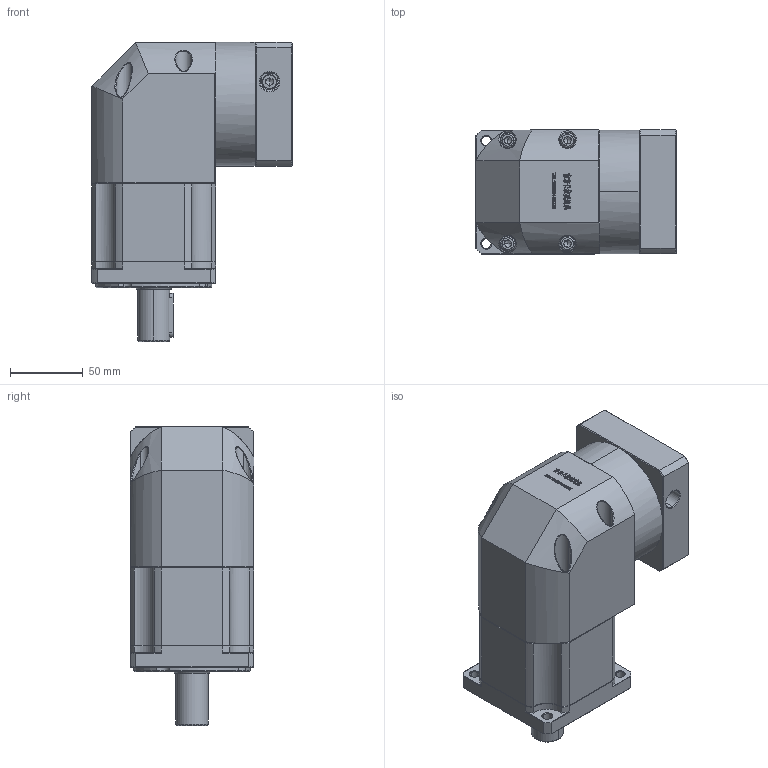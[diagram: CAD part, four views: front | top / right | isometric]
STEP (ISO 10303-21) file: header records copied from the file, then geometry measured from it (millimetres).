
FILE_DESCRIPTION (( 'STEP AP214' ), '1' );
FILE_NAME ('ZBR90-D22-L2-16-80-100-M6.step', '2022-05-07T15:06:18', ( '' ), ( 'Microsoft' ), 'SwSTEP 2.0', 'SolidWorks 2016', '' );
FILE_SCHEMA (( 'AUTOMOTIVE_DESIGN' ));
Length unit declared in the file: millimetre
Products named in the file (1): ZBR90-D22-L2-16-80-100-M6
Bounding box: 137.6 x 85 x 205.5 mm (x, y, z)
Volume: 1308533.7 mm3; surface area: 136212.5 mm2
Topology: 5 solids, 5 shells, 3008 faces, 7960 edges, 5088 vertices
Faces by surface type: plane 1575, bspline 603, cylinder 449, cone 355, torus 26
Entity records: 163270 total; most frequent: CARTESIAN_POINT 60537, ORIENTED_EDGE 15844, DIRECTION 12093, EDGE_CURVE 7922, LINE 5275, VECTOR 5275, VERTEX_POINT 5088, AXIS2_PLACEMENT_3D 3409
